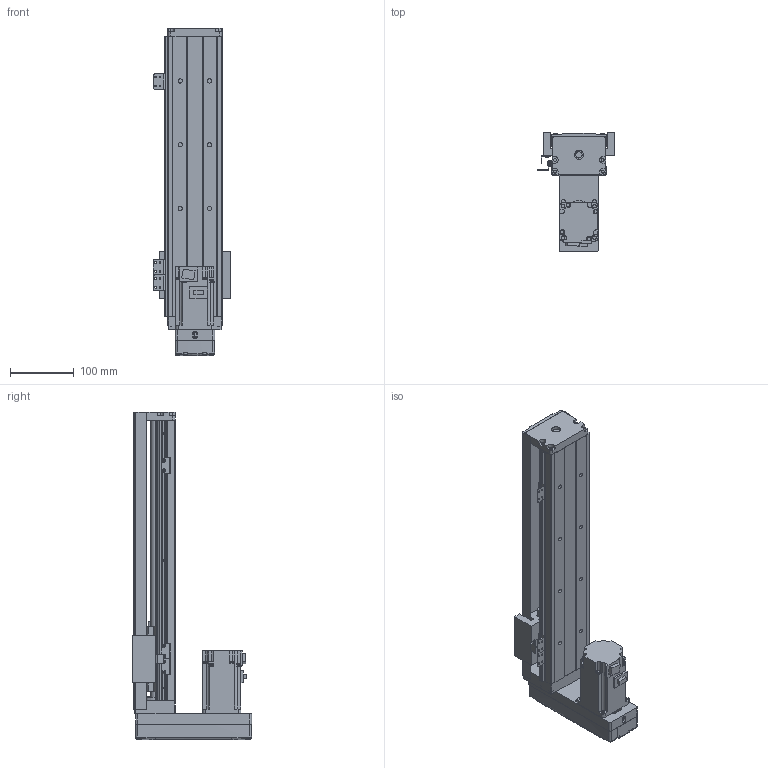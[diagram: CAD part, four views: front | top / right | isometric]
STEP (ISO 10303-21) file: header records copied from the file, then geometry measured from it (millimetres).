
FILE_DESCRIPTION (( 'STEP AP203' ), '1' );
FILE_NAME ('KH86D10C-440A1-H0MCS0.STEP', '2023-09-13T08:28:17', ( 'Windows User' ), ( 'P R C' ), 'SwSTEP 2.0', 'SolidWorks 2016', '' );
FILE_SCHEMA (( 'CONFIG_CONTROL_DESIGN' ));
Length unit declared in the file: millimetre
Products named in the file (15): KH86-綴釱_KK86-05-01; KK60-08-01; 86賑輸; KH86-A1; KK86-06-02（M12X1.0）; KK86-蛌諉釱; 囀鞠褒す埴芛蹟隊M3℅4; KH86-02-BM00; KH86D10C-440A1-H0MCS0; 鞠褒蹟譫M3; KH86-01-440; KH86-04-05-02; 囀鞠褒す埴芛蹟隊M3℅5; KH86-憤癹寢耋; 囀鞠褒す埴芛蹟隊M4℅10
Assembly tree (27 placements, depth 3):
  KH86D10C-440A1-H0MCS0
    KH86-01-440
    KH86-A1
      86賑輸
      KK86-蛌諉釱
    KH86-綴釱_KK86-05-01
    囀鞠褒す埴芛蹟隊M4℅10  x4
    KH86-04-05-02
    囀鞠褒す埴芛蹟隊M3℅5  x2
    KK60-08-01  x3
    KK86-06-02（M12X1.0）
    KH86-憤癹寢耋
    囀鞠褒す埴芛蹟隊M3℅4  x6
    鞠褒蹟譫M3  x3
    KH86-02-BM00
Bounding box: 121 x 187.15 x 514.5 mm (x, y, z)
Volume: 1898304.4 mm3; surface area: 496148.4 mm2
Topology: 32 solids, 76 shells, 1912 faces, 4819 edges, 3052 vertices
Faces by surface type: plane 776, cylinder 637, cone 317, bspline 182
Entity records: 56387 total; most frequent: CARTESIAN_POINT 17460, ORIENTED_EDGE 7779, DIRECTION 7532, EDGE_CURVE 3901, AXIS2_PLACEMENT_3D 2726, VERTEX_POINT 2553, VECTOR 2080, LINE 2080
